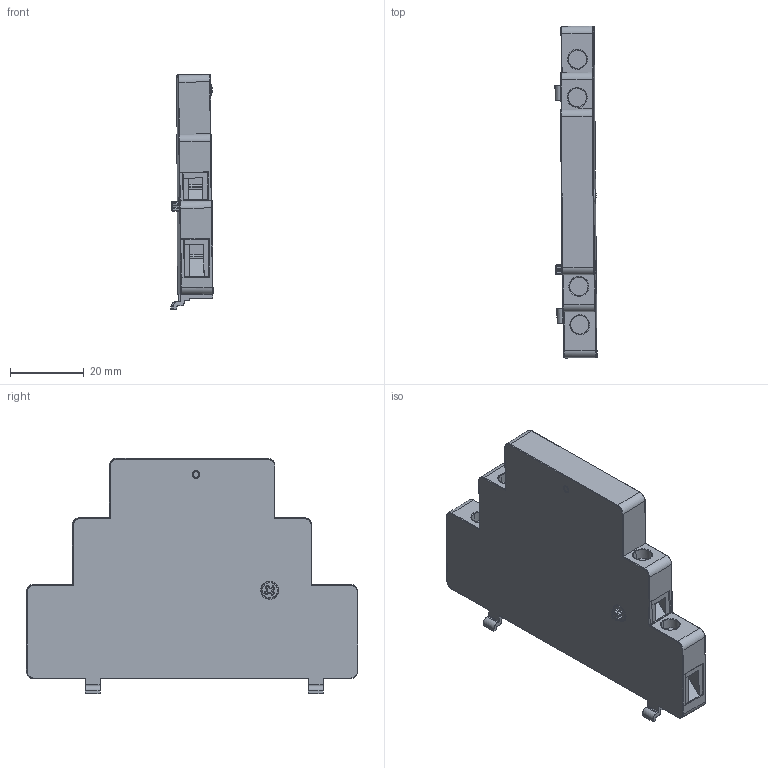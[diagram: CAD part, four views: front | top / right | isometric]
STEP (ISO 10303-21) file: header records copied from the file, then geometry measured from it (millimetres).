
FILE_DESCRIPTION (( 'STEP AP214' ), '1' );
FILE_NAME ('RBC-AUXzz.STEP', '2024-04-11T06:43:53', ( '' ), ( '' ), 'SwSTEP 2.0', 'SolidWorks 2022', '' );
FILE_SCHEMA (( 'AUTOMOTIVE_DESIGN' ));
Length unit declared in the file: millimetre
Products named in the file (1): RBC-AUXzz
Bounding box: 11.4 x 89.99 x 63.79 mm (x, y, z)
Volume: 35783.5 mm3; surface area: 12266.1 mm2
Topology: 1 solids, 2 shells, 401 faces, 1032 edges, 641 vertices
Faces by surface type: plane 223, cylinder 115, bspline 32, cone 11, sphere 10, torus 10
Entity records: 16686 total; most frequent: CARTESIAN_POINT 7124, ORIENTED_EDGE 2048, DIRECTION 1894, EDGE_CURVE 1024, LINE 684, VECTOR 684, VERTEX_POINT 641, AXIS2_PLACEMENT_3D 605
